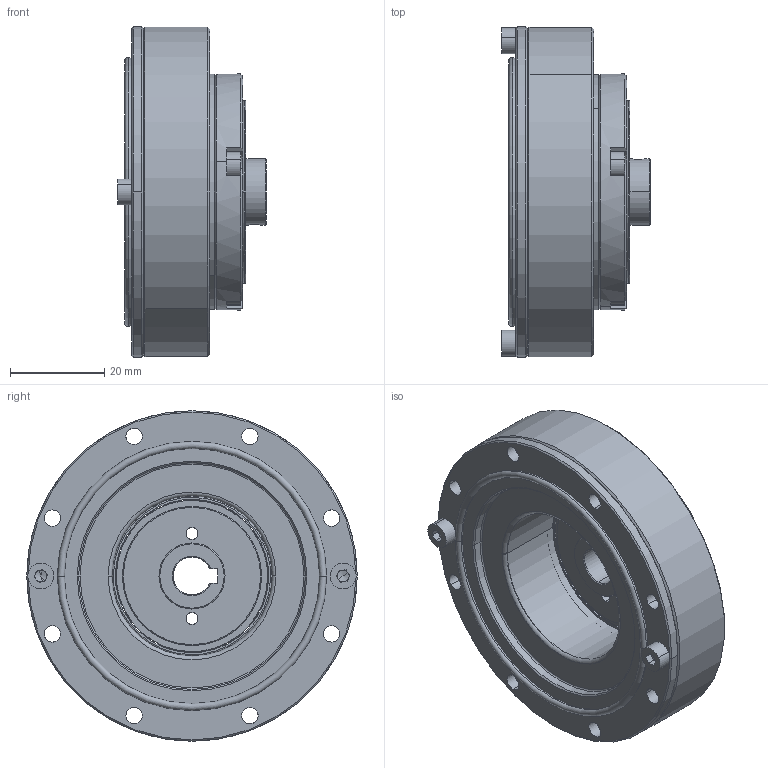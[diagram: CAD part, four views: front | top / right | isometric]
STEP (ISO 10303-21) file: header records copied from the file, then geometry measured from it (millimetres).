
FILE_DESCRIPTION (( 'STEP AP203' ), '1' );
FILE_NAME ('FHG-14-XXX-SJ.STEP', '2023-01-17T01:48:12', ( '微软用户' ), ( '微软中国' ), 'SwSTEP 2.0', 'SolidWorks 2016', '' );
FILE_SCHEMA (( 'CONFIG_CONTROL_DESIGN' ));
Length unit declared in the file: millimetre
Products named in the file (1): FHG-14-XXX-SJ
Bounding box: 31.5 x 70 x 70 mm (x, y, z)
Volume: 52309 mm3; surface area: 47598.1 mm2
Topology: 43 solids, 43 shells, 671 faces, 1677 edges, 1039 vertices
Faces by surface type: cylinder 279, plane 186, cone 120, sphere 46, torus 40
Entity records: 19437 total; most frequent: DIRECTION 3720, CARTESIAN_POINT 3386, ORIENTED_EDGE 3044, AXIS2_PLACEMENT_3D 1550, EDGE_CURVE 1522, VERTEX_POINT 970, CIRCLE 878, EDGE_LOOP 798
